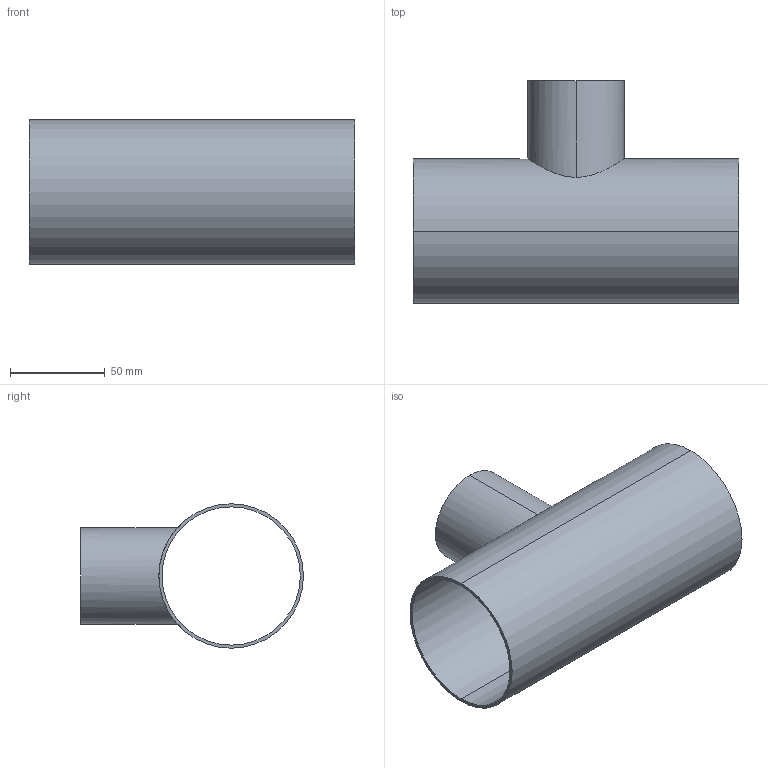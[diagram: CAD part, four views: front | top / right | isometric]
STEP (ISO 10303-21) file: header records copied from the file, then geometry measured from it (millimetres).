
FILE_DESCRIPTION (( 'STEP AP214' ), '1' );
FILE_NAME ('TE7RWWW6L3.0x2.0-...STEP', '2016-05-24T04:26:17', ( 'eran' ), ( '' ), 'SwSTEP 2.0', 'SolidWorks 2016', '' );
FILE_SCHEMA (( 'AUTOMOTIVE_DESIGN' ));
Length unit declared in the file: millimetre
Products named in the file (1): TE7RWWW6L3.0x2.0-..
Bounding box: 171.4 x 117.5 x 76.2 mm (x, y, z)
Volume: 74763.9 mm3; surface area: 91643.7 mm2
Topology: 1 solids, 1 shells, 11 faces, 24 edges, 16 vertices
Faces by surface type: cylinder 8, plane 3
Entity records: 592 total; most frequent: CARTESIAN_POINT 300, DIRECTION 56, ORIENTED_EDGE 48, EDGE_CURVE 24, AXIS2_PLACEMENT_3D 24, EDGE_LOOP 16, VERTEX_POINT 16, CIRCLE 12
